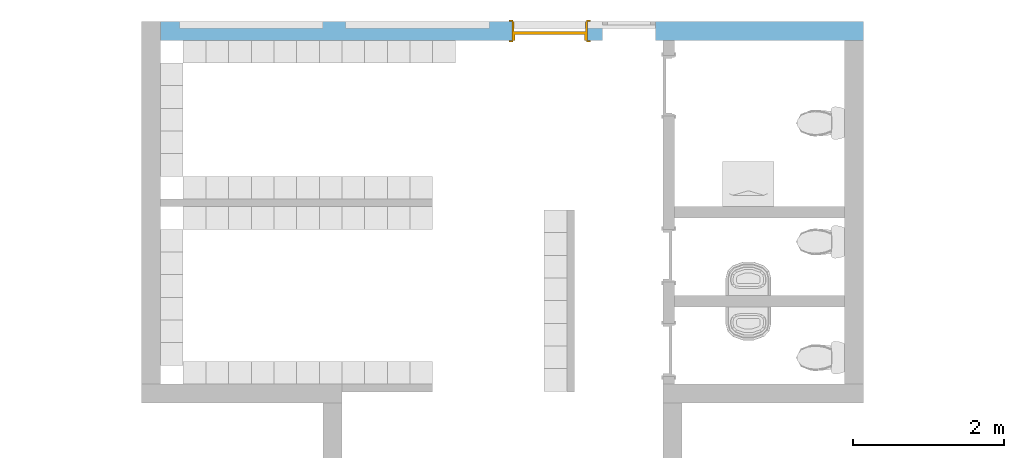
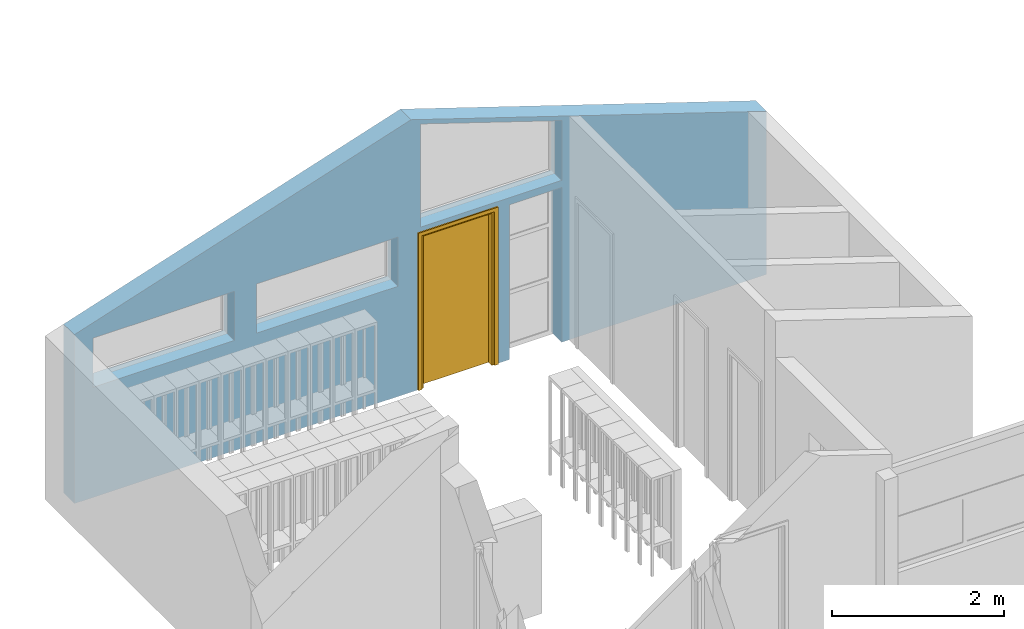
# One storey, part 18 of 48: 1 door, 5 openings, plus 1 element that does not belong to this part.
"""IFC2X3 building model written with IfcOpenShell, lengths in millimetres."""

from ifc_helpers import new_model, entity, si_unit, converted_unit, derived_unit, money_unit, direction, frame, origin_with_axes, place, context, subcontext, project, spatial, faceted_brep, material, type_object, element, fill, save


model = new_model("IFC2X3")

# Units and contexts
model_context = context("Model", 3, precision=0.01, world=origin_with_axes(), true_north=direction((0.0, 1.0)))
body_context = subcontext(model_context, "Body", "Model", "MODEL_VIEW")
ifc_project = project(units=[si_unit("LENGTHUNIT", "METRE", prefix="MILLI"), si_unit("AREAUNIT", "SQUARE_METRE"), si_unit("VOLUMEUNIT", "CUBIC_METRE"), converted_unit("PLANEANGLEUNIT", "DEGREE", entity("IfcPlaneAngleMeasure", 0.0174532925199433), si_unit("PLANEANGLEUNIT", "RADIAN"), dimensions=[0, 0, 0, 0, 0, 0, 0]), money_unit("USD"), converted_unit("TIMEUNIT", "Year", entity("IfcTimeMeasure", 31557600.0), si_unit("TIMEUNIT", "SECOND"), dimensions=[0, 0, 1, 0, 0, 0, 0]), si_unit("MASSUNIT", "GRAM", prefix="KILO"), si_unit("THERMODYNAMICTEMPERATUREUNIT", "DEGREE_CELSIUS"), si_unit("LUMINOUSINTENSITYUNIT", "LUMEN"), si_unit("ENERGYUNIT", "JOULE", prefix="MEGA"), derived_unit("THERMALCONDUCTANCEUNIT", [(si_unit("POWERUNIT", "WATT"), 1), (si_unit("LENGTHUNIT", "METRE"), -1), (si_unit("THERMODYNAMICTEMPERATUREUNIT", "KELVIN"), -1)]), derived_unit("SPECIFICHEATCAPACITYUNIT", [(si_unit("ENERGYUNIT", "JOULE"), 1), (si_unit("MASSUNIT", "GRAM", prefix="KILO"), -1), (si_unit("THERMODYNAMICTEMPERATUREUNIT", "KELVIN"), -1)]), derived_unit("MASSDENSITYUNIT", [(si_unit("MASSUNIT", "GRAM", prefix="KILO"), 1), (si_unit("VOLUMEUNIT", "CUBIC_METRE"), -1)])], contexts=[model_context])

# Site, building, storey
site_placement = place(None, origin_with_axes())
site = spatial("IfcSite", under=ifc_project, at=site_placement, Name="Site", CompositionType="ELEMENT")
building_placement = place(site_placement, origin_with_axes())
building = spatial("IfcBuilding", under=site, at=building_placement, Name="Building", CompositionType="ELEMENT")
storey_placement = place(building_placement, frame((0.0, 0.0, 3300.0), z_axis=(0.0, 0.0, 1.0), x_axis=(1.0, 0.0, 0.0)))
storey = spatial("IfcBuildingStorey", under=building, at=storey_placement, Name="1 ETG", CompositionType="ELEMENT", Elevation=3300.0)

# Wall, openings, door
ifc_material = material(Name="GENERIC - INTERNAL FILLER")
wall_type = type_object("IfcWallType", Name="GENERIC - INTERNAL FILLER 250", PredefinedType="NOTDEFINED")
wall_placement = place(storey_placement, frame((2099.999999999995, 28999.87497643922, 0.0), z_axis=(0.0, 0.0, 1.0), x_axis=(1.0, 7.248070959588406e-10, 0.0)))
wall = element("IfcWall", 1, at=wall_placement, inside=storey, type_object=wall_type, material=ifc_material, Name="SW - 001", context=body_context, shape_type="Brep", body=[
    faceted_brep([(4775.001624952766, 124.9999965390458, 2200.0), (4775.001624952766, 124.9999965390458, 0.0), (125.0000000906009, 124.9999999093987, 0.0), (125.0000000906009, 124.9999999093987, 2399.998850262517), (4650.000384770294, 124.9999966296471, 3870.261768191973), (9425.000220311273, 124.9999931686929, 2318.768884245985), (9424.999677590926, 124.9999931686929, 0.0), (6675.001624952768, 124.9999951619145, 0.0), (6675.001624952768, 124.9999951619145, 2200.0), (5975.001624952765, 124.9999956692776, 2200.0), (5975.001624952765, 124.9999956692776, 0.0), (5775.001624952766, 124.9999958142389, 0.0), (5775.001624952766, 124.9999958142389, 2200.0), (375.0000002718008, 124.9999997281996, 1565.018749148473), (2275.000000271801, 124.9999983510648, 1565.018749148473), (2275.000000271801, 124.9999983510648, 2265.018749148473), (375.0000002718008, 124.9999997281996, 2265.018749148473), (4775.001624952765, 124.9999965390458, 3767.347422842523), (4775.001624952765, 124.9999965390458, 2300.000000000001), (6675.001624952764, 124.9999951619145, 2300.000000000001), (6675.001624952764, 124.9999951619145, 3150.0), (4475.001624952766, 124.9999967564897, 2265.018749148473), (2575.001624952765, 124.9999981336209, 2265.018749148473), (2575.001624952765, 124.9999981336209, 1565.018749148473), (4475.001624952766, 124.9999967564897, 1565.018749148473), (4775.001624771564, -125.0000034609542, 2200.0), (4775.001624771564, -125.0000034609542, 0.0), (124.9999999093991, -125.0000000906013, 0.0), (124.9999999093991, -125.0000000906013, 2399.998850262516), (4650.000384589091, -125.0000033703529, 3870.261768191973), (9425.00022413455, -125.0000068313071, 2318.768882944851), (9424.999712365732, -125.0000068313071, 0.0), (6675.001624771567, -125.0000048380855, 0.0), (6675.001624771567, -125.0000048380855, 2200.0), (5975.001624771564, -125.0000043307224, 2200.0), (5975.001624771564, -125.0000043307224, 0.0), (5775.001624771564, -125.0000041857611, 0.0), (5775.001624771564, -125.0000041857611, 2200.0), (375.0000000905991, -125.0000002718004, 1565.018749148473), (2275.000000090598, -125.0000016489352, 1565.018749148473), (2275.000000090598, -125.0000016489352, 2265.018749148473), (375.0000000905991, -125.0000002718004, 2265.018749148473), (4775.001624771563, -125.0000034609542, 2300.000000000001), (4775.001624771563, -125.0000034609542, 3767.347422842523), (6675.001624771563, -125.0000048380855, 2300.000000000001), (6675.001624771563, -125.0000048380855, 3150.0), (4475.001624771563, -125.0000032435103, 2265.018749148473), (2575.001624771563, -125.0000018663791, 2265.018749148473), (2575.001624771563, -125.0000018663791, 1565.018749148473), (4475.001624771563, -125.0000032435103, 1565.018749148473)], [[[0, 1, 2, 3, 4, 5, 6, 7, 8, 9, 10, 11, 12], [13, 14, 15, 16], [17, 18, 19, 20], [21, 22, 23, 24]], [[1, 0, 25, 26]], [[1, 26, 27, 2]], [[28, 3, 2, 27]], [[4, 3, 28, 29]], [[30, 5, 4, 29]], [[5, 30, 31, 6]], [[7, 6, 31, 32]], [[7, 32, 33, 8]], [[8, 33, 34, 9]], [[9, 34, 35, 10]], [[36, 11, 10, 35]], [[12, 11, 36, 37]], [[0, 12, 37, 25]], [[14, 13, 38, 39]], [[15, 14, 39, 40]], [[16, 15, 40, 41]], [[13, 16, 41, 38]], [[42, 18, 17, 43]], [[44, 19, 18, 42]], [[45, 20, 19, 44]], [[43, 17, 20, 45]], [[46, 47, 22, 21]], [[47, 48, 23, 22]], [[48, 49, 24, 23]], [[49, 46, 21, 24]], [[37, 36, 35, 34, 33, 32, 31, 30, 29, 28, 27, 26, 25], [38, 41, 40, 39], [44, 42, 43, 45], [46, 49, 48, 47]]]),
])
opening_1_placement = place(wall_placement, frame((5725.001624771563, 0.0, 2300.000000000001), z_axis=(0.0, 0.0, 1.0), x_axis=(1.0, 0.0, 0.0)))
element("IfcOpeningElement", 2, at=opening_1_placement, cuts=wall, Name="WD - 001", context=body_context, shape_type="Brep", body=[
    faceted_brep([(-950.000000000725, -126.000003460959, 1467.347422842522), (-950.000000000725, -126.000003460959, 0.0), (949.9999999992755, -126.0000048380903, 0.0), (949.9999999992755, -126.0000048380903, 849.9999999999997), (-949.9999998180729, 126.0000032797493, 1467.347422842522), (-949.9999998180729, 126.0000032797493, 0.0), (950.0000001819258, 126.000001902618, 0.0), (950.0000001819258, 126.000001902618, 849.9999999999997)], [[[0, 1, 2, 3]], [[4, 5, 1, 0]], [[5, 6, 2, 1]], [[6, 7, 3, 2]], [[7, 4, 0, 3]], [[6, 5, 4, 7]]]),
])
opening_2_placement = place(wall_placement, frame((3525.001624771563, 0.0, 1565.018749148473), z_axis=(0.0, 0.0, 1.0), x_axis=(1.0, 0.0, 0.0)))
element("IfcOpeningElement", 3, at=opening_2_placement, cuts=wall, Name="WD - 001", context=body_context, shape_type="Brep", body=[
    faceted_brep([(-950.0000000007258, -126.0000018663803, 700.0000000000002), (-950.0000000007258, -126.0000018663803, 0.0), (949.9999999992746, -126.0000032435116, 0.0), (949.9999999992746, -126.0000032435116, 700.0000000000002), (-949.9999998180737, 126.0000048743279, 700.0000000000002), (-949.9999998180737, 126.0000048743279, 0.0), (950.0000001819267, 126.0000034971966, 0.0), (950.0000001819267, 126.0000034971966, 700.0000000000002)], [[[0, 1, 2, 3]], [[4, 5, 1, 0]], [[5, 6, 2, 1]], [[6, 7, 3, 2]], [[7, 4, 0, 3]], [[6, 5, 4, 7]]]),
])
opening_3_placement = place(wall_placement, frame((6325.001624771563, 0.0, 0.0), z_axis=(0.0, 0.0, 1.0), x_axis=(1.0, 0.0, 0.0)))
element("IfcOpeningElement", 4, at=opening_3_placement, cuts=wall, Name="WD - 001", context=body_context, shape_type="Brep", body=[
    faceted_brep([(-350.0000000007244, -126.0000043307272, 2200.0), (-350.0000000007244, -126.0000043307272, 0.0), (349.9999999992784, -126.0000048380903, 0.0), (349.9999999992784, -126.0000048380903, 2200.0), (-349.9999998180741, 126.000002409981, 2200.0), (-349.9999998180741, 126.000002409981, 0.0), (350.0000001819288, 126.000001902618, 0.0), (350.0000001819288, 126.000001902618, 2200.0)], [[[0, 1, 2, 3]], [[4, 5, 1, 0]], [[5, 6, 2, 1]], [[6, 7, 3, 2]], [[7, 4, 0, 3]], [[6, 5, 4, 7]]]),
])
opening_4_placement = place(wall_placement, frame((5275.001624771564, 0.0, 0.0), z_axis=(0.0, 0.0, 1.0), x_axis=(1.0, 0.0, 0.0)))
opening_4 = element("IfcOpeningElement", 5, at=opening_4_placement, cuts=wall, Name="DOO - 002", context=body_context, shape_type="Brep", body=[
    faceted_brep([(-500.0000000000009, -125.0000034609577, 2200.0), (499.9999999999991, -125.0000041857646, 2200.0), (500.0000001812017, 124.9999958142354, 2200.0), (-499.9999998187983, 124.9999965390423, 2200.0), (499.9999999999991, -125.0000041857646, 0.0), (-500.0000000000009, -125.0000034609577, 0.0), (-537.0000000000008, -125.0000034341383, 0.0), (-537.0000000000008, -125.0000034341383, 2237.0), (536.9999999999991, -125.0000042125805, 2237.0), (536.9999999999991, -125.0000042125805, 0.0), (500.0000001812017, 124.9999958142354, 0.0), (537.0000001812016, 124.9999957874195, 0.0), (537.0000001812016, 124.9999957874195, 2237.0), (-536.9999998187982, 124.9999965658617, 2237.0), (-536.9999998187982, 124.9999965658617, 0.0), (-499.9999998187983, 124.9999965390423, 0.0), (-500.0000000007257, -126.000003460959, 0.0), (-537.0000000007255, -126.0000034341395, 0.0), (-537.0000000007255, -126.0000034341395, 2237.0), (536.9999999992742, -126.0000042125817, 2237.0), (536.9999999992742, -126.0000042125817, 0.0), (499.9999999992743, -126.0000041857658, 0.0), (-499.9999998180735, 126.0000032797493, 0.0), (500.0000001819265, 126.0000025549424, 0.0), (537.0000001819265, 126.0000025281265, 0.0), (537.0000001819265, 126.0000025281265, 2237.0), (-536.9999998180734, 126.0000033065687, 2237.0), (-536.9999998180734, 126.0000033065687, 0.0), (-500.0000000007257, -126.000003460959, 2200.0), (499.9999999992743, -126.0000041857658, 2200.0)], [[[0, 1, 2, 3]], [[4, 1, 0, 5, 6, 7, 8, 9]], [[1, 4, 10, 2]], [[3, 2, 10, 11, 12, 13, 14, 15]], [[5, 0, 3, 15]], [[5, 16, 17, 6]], [[7, 6, 17, 18]], [[8, 7, 18, 19]], [[9, 8, 19, 20]], [[21, 4, 9, 20]], [[16, 5, 15, 22, 23, 10, 4, 21]], [[10, 23, 24, 11]], [[12, 11, 24, 25]], [[13, 12, 25, 26]], [[14, 13, 26, 27]], [[22, 15, 14, 27]], [[28, 29, 21, 20, 19, 18, 17, 16]], [[23, 22, 27, 26, 25, 24]], [[28, 16, 21, 29]]]),
])
opening_5_placement = place(wall_placement, frame((1325.000000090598, 0.0, 1565.018749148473), z_axis=(0.0, 0.0, 1.0), x_axis=(1.0, 0.0, 0.0)))
element("IfcOpeningElement", 6, at=opening_5_placement, cuts=wall, Name="WD - 001", context=body_context, shape_type="Brep", body=[
    faceted_brep([(-950.0000000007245, -126.0000002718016, 700.0000000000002), (-950.0000000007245, -126.0000002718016, 0.0), (949.9999999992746, -126.0000016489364, 0.0), (949.9999999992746, -126.0000016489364, 700.0000000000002), (-949.9999998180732, 126.0000064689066, 700.0000000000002), (-949.9999998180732, 126.0000064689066, 0.0), (950.0000001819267, 126.0000050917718, 0.0), (950.0000001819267, 126.0000050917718, 700.0000000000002)], [[[0, 1, 2, 3]], [[4, 5, 1, 0]], [[5, 6, 2, 1]], [[6, 7, 3, 2]], [[7, 4, 0, 3]], [[6, 5, 4, 7]]]),
])
door_style = type_object("IfcDoorStyle", Name="Dør", ConstructionType="NOTDEFINED", OperationType="SINGLE_SWING_LEFT", ParameterTakesPrecedence=False, Sizeable=False)
door_placement = place(opening_4_placement, frame((-499.9999999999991, 0.0, 0.0), z_axis=(0.0, 0.0, 1.0), x_axis=(1.0, 0.0, 0.0)))
door = element("IfcDoor", 7, at=door_placement, inside=storey, type_object=door_style, Name="DOO - 002", ObjectType="DOOR", OverallHeight=2200.0, OverallWidth=1000.0, context=body_context, shape_type="Brep", body=[
    faceted_brep([(1000.000000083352, -10.00000418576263, 0.0), (975.0000000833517, -10.00000416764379, 0.0), (975.0000001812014, 124.9999958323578, 0.0), (1000.000000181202, 124.9999958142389, 0.0), (1000.000000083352, -10.00000418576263, 2200.0), (975.0000000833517, -10.00000416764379, 2175.0), (975.0000001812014, 124.9999958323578, 2175.0), (1000.000000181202, 124.9999958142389, 2200.0)], [[[0, 1, 2, 3]], [[0, 4, 5, 1]], [[1, 5, 6, 2]], [[3, 2, 6, 7]], [[4, 0, 3, 7]], [[5, 4, 7, 6]]]),
    faceted_brep([(8.335199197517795e-08, -10.00000346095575, 2200.0), (25.00000008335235, -10.00000347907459, 2175.0), (25.00000018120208, 124.999996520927, 2175.0), (1.81201720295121e-07, 124.9999965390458, 2200.0), (8.335199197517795e-08, -10.00000346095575, 0.0), (25.00000008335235, -10.00000347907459, 0.0), (25.00000018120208, 124.999996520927, 0.0), (1.81201720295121e-07, 124.9999965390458, 0.0)], [[[0, 1, 2, 3]], [[0, 4, 5, 1]], [[1, 5, 6, 2]], [[3, 2, 6, 7]], [[4, 0, 3, 7]], [[5, 4, 7, 6]]]),
    faceted_brep([(975.0000000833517, -10.00000416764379, 2175.0), (25.00000008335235, -10.00000347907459, 2175.0), (25.00000018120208, 124.999996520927, 2175.0), (975.0000001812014, 124.9999958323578, 2175.0), (1000.000000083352, -10.00000418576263, 2200.0), (8.335199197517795e-08, -10.00000346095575, 2200.0), (1.81201720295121e-07, 124.9999965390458, 2200.0), (1000.000000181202, 124.9999958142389, 2200.0)], [[[0, 1, 2, 3]], [[0, 4, 5, 1]], [[1, 5, 6, 2]], [[3, 2, 6, 7]], [[4, 0, 3, 7]], [[5, 4, 7, 6]]]),
    faceted_brep([(1037.000000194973, 143.9999957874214, 0.0), (1037.000000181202, 124.999995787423, 0.0), (987.0000001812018, 124.9999958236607, 0.0), (987.000000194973, 143.9999958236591, 0.0), (1037.000000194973, 143.9999957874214, 2237.0), (1037.000000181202, 124.999995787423, 2237.0), (987.0000001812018, 124.9999958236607, 2187.0), (987.000000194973, 143.9999958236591, 2187.0)], [[[0, 1, 2, 3]], [[4, 5, 1, 0]], [[1, 5, 6, 2]], [[3, 2, 6, 7]], [[0, 3, 7, 4]], [[7, 6, 5, 4]]]),
    faceted_brep([(-36.999999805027, 143.9999965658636, 2237.0), (-36.9999998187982, 124.9999965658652, 2237.0), (13.00000018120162, 124.999996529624, 2187.0), (13.00000019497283, 143.9999965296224, 2187.0), (-36.999999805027, 143.9999965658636, 0.0), (-36.9999998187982, 124.9999965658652, 0.0), (13.00000018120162, 124.999996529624, 0.0), (13.00000019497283, 143.9999965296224, 0.0)], [[[0, 1, 2, 3]], [[4, 5, 1, 0]], [[1, 5, 6, 2]], [[3, 2, 6, 7]], [[0, 3, 7, 4]], [[7, 6, 5, 4]]]),
    faceted_brep([(1037.000000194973, 143.9999957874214, 2237.0), (1037.000000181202, 124.999995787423, 2237.0), (987.0000001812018, 124.9999958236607, 2187.0), (987.000000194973, 143.9999958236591, 2187.0), (-36.999999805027, 143.9999965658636, 2237.0), (-36.9999998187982, 124.9999965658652, 2237.0), (13.00000018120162, 124.999996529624, 2187.0), (13.00000019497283, 143.9999965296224, 2187.0)], [[[0, 1, 2, 3]], [[4, 5, 1, 0]], [[1, 5, 6, 2]], [[3, 2, 6, 7]], [[0, 3, 7, 4]], [[7, 6, 5, 4]]]),
    faceted_brep([(1036.999999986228, -144.0000042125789, 0.0), (986.999999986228, -144.0000041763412, 0.0), (986.9999999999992, -125.0000041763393, 0.0), (1036.999999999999, -125.000004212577, 0.0), (1036.999999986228, -144.0000042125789, 2237.0), (986.999999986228, -144.0000041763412, 2187.0), (986.9999999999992, -125.0000041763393, 2187.0), (1036.999999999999, -125.000004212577, 2237.0)], [[[0, 1, 2, 3]], [[0, 4, 5, 1]], [[1, 5, 6, 2]], [[3, 2, 6, 7]], [[4, 0, 3, 7]], [[5, 4, 7, 6]]]),
    faceted_brep([(-37.00000001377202, -144.0000034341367, 2237.0), (12.99999998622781, -144.0000034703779, 2187.0), (12.99999999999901, -125.000003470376, 2187.0), (-37.00000000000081, -125.0000034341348, 2237.0), (-37.00000001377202, -144.0000034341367, 0.0), (12.99999998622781, -144.0000034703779, 0.0), (12.99999999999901, -125.000003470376, 0.0), (-37.00000000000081, -125.0000034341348, 0.0)], [[[0, 1, 2, 3]], [[0, 4, 5, 1]], [[1, 5, 6, 2]], [[3, 2, 6, 7]], [[4, 0, 3, 7]], [[5, 4, 7, 6]]]),
    faceted_brep([(1036.999999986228, -144.0000042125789, 2237.0), (986.999999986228, -144.0000041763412, 2187.0), (986.9999999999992, -125.0000041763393, 2187.0), (1036.999999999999, -125.000004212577, 2237.0), (-37.00000001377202, -144.0000034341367, 2237.0), (12.99999998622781, -144.0000034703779, 2187.0), (12.99999999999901, -125.000003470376, 2187.0), (-37.00000000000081, -125.0000034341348, 2237.0)], [[[0, 1, 2, 3]], [[0, 4, 5, 1]], [[1, 5, 6, 2]], [[3, 2, 6, 7]], [[4, 0, 3, 7]], [[5, 4, 7, 6]]]),
    faceted_brep([(1000.000000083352, -10.00000418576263, 0.0), (999.9999999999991, -125.0000041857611, 0.0), (959.9999999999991, -125.0000041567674, 0.0), (960.000000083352, -10.00000415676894, 0.0), (1000.000000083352, -10.00000418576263, 2160.0), (999.9999999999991, -125.0000041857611, 2160.0), (959.9999999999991, -125.0000041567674, 2160.0), (960.000000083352, -10.00000415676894, 2160.0)], [[[0, 1, 2, 3]], [[4, 5, 1, 0]], [[1, 5, 6, 2]], [[3, 2, 6, 7]], [[0, 3, 7, 4]], [[7, 6, 5, 4]]]),
    faceted_brep([(8.335199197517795e-08, -10.00000346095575, 0.0), (0.0, -125.0000034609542, 0.0), (0.0, -125.0000034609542, 2160.0), (8.335199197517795e-08, -10.00000346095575, 2160.0), (40.00000008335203, -10.0000034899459, 0.0), (39.99999999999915, -125.0000034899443, 0.0), (39.99999999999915, -125.0000034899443, 2160.0), (40.00000008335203, -10.0000034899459, 2160.0)], [[[0, 1, 2, 3]], [[4, 5, 1, 0]], [[1, 5, 6, 2]], [[3, 2, 6, 7]], [[0, 3, 7, 4]], [[7, 6, 5, 4]]]),
    faceted_brep([(1000.000000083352, -10.00000418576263, 2200.0), (999.9999999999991, -125.0000041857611, 2200.0), (999.9999999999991, -125.0000041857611, 2160.0), (1000.000000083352, -10.00000418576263, 2160.0), (8.335199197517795e-08, -10.00000346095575, 2200.0), (0.0, -125.0000034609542, 2200.0), (0.0, -125.0000034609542, 2160.0), (39.99999999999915, -125.0000034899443, 2160.0), (959.9999999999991, -125.0000041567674, 2160.0), (960.000000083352, -10.00000415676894, 2160.0), (40.00000008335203, -10.0000034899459, 2160.0), (8.335199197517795e-08, -10.00000346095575, 2160.0)], [[[0, 1, 2, 3]], [[4, 5, 1, 0]], [[1, 5, 6, 7, 8, 2]], [[3, 2, 8, 9]], [[0, 3, 9, 10, 11, 4]], [[11, 6, 5, 4]], [[10, 7, 6, 11]], [[9, 8, 7, 10]]]),
    faceted_brep([(40.00000008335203, -10.0000034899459, 0.0), (960.000000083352, -10.00000415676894, 0.0), (960.00000005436, -50.00000415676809, 0.0), (40.00000005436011, -50.00000348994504, 0.0), (40.00000008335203, -10.0000034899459, 2160.0), (960.000000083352, -10.00000415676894, 2160.0), (960.00000005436, -50.00000415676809, 2160.0), (40.00000005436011, -50.00000348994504, 2160.0)], [[[0, 1, 2, 3]], [[0, 4, 5, 1]], [[1, 5, 6, 2]], [[3, 2, 6, 7]], [[4, 0, 3, 7]], [[5, 4, 7, 6]]]),
])
fill(opening_4, door)

save(model, "model.ifc")
